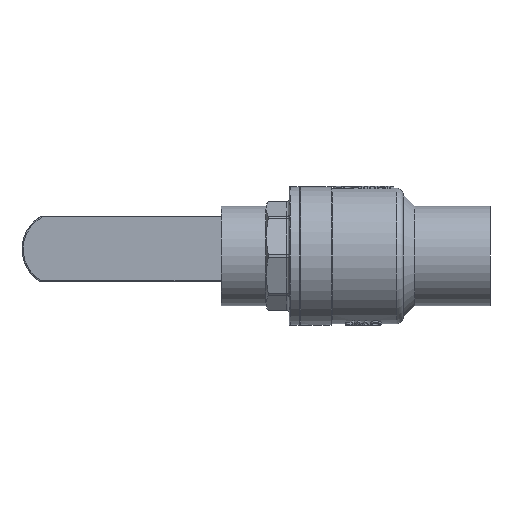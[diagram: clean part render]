
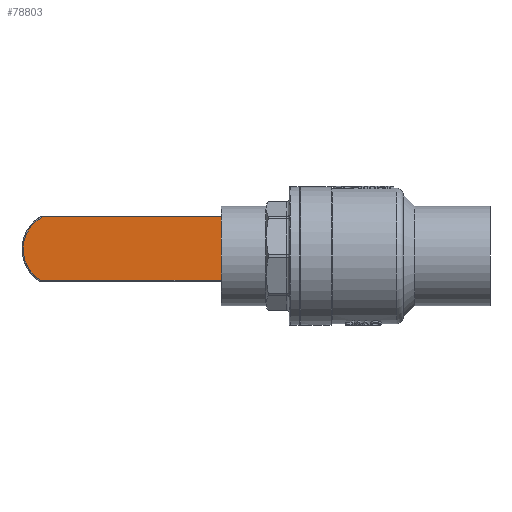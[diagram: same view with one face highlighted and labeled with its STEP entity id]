
A CAD part, front view. The second image highlights one B-rep face of the part: STEP entity #78803.
In plain terms, the highlighted planar face has unit normal (0, -1, 0).
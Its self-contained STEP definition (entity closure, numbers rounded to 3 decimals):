
#539 = CARTESIAN_POINT ( 'NONE',  ( 125., 20.5, 0. ) ) ;
#1488 = CARTESIAN_POINT ( 'NONE',  ( 133.205, 20.5, 13.15 ) ) ;
#1669 = DIRECTION ( 'NONE',  ( 0., 0., 1. ) ) ;
#2537 = ORIENTED_EDGE ( 'NONE', *, *, #29339, .T. ) ;
#4597 = VECTOR ( 'NONE', #25870, 1000. ) ;
#15016 = VERTEX_POINT ( 'NONE', #1488 ) ;
#16130 = AXIS2_PLACEMENT_3D ( 'NONE', #539, #53933, #1669 ) ;
#16777 = EDGE_CURVE ( 'NONE', #60270, #89980, #111974, .T. ) ;
#17118 = EDGE_CURVE ( 'NONE', #89980, #103763, #99600, .T. ) ;
#17437 = AXIS2_PLACEMENT_3D ( 'NONE', #95542, #113225, #78169 ) ;
#25870 = DIRECTION ( 'NONE',  ( -1., 0., 0. ) ) ;
#29339 = EDGE_CURVE ( 'NONE', #15016, #60270, #72424, .T. ) ;
#37510 = CARTESIAN_POINT ( 'NONE',  ( 49.971, 20.5, 12.65 ) ) ;
#40129 = ORIENTED_EDGE ( 'NONE', *, *, #17118, .T. ) ;
#40241 = FACE_OUTER_BOUND ( 'NONE', #101527, .T. ) ;
#42289 = DIRECTION ( 'NONE',  ( 1., 0., 0. ) ) ;
#44366 = VECTOR ( 'NONE', #90063, 1000. ) ;
#50794 = CARTESIAN_POINT ( 'NONE',  ( 49.1, 20.5, -13.65 ) ) ;
#52984 = CARTESIAN_POINT ( 'NONE',  ( 49.971, 20.5, 13.15 ) ) ;
#53933 = DIRECTION ( 'NONE',  ( 0., -1., 0. ) ) ;
#56758 = EDGE_CURVE ( 'NONE', #103763, #15016, #102939, .T. ) ;
#60270 = VERTEX_POINT ( 'NONE', #64773 ) ;
#62082 = ORIENTED_EDGE ( 'NONE', *, *, #56758, .T. ) ;
#63337 = ORIENTED_EDGE ( 'NONE', *, *, #16777, .T. ) ;
#64773 = CARTESIAN_POINT ( 'NONE',  ( 49.971, 20.5, 13.15 ) ) ;
#72424 = LINE ( 'NONE', #52984, #4597 ) ;
#74387 = CARTESIAN_POINT ( 'NONE',  ( 132.344, 20.5, -13.65 ) ) ;
#78169 = DIRECTION ( 'NONE',  ( 0., 0., 1. ) ) ;
#78803 = ADVANCED_FACE ( 'NONE', ( #40241 ), #88576, .F. ) ;
#81690 = VECTOR ( 'NONE', #42289, 1000. ) ;
#88576 = PLANE ( 'NONE',  #17437 ) ;
#89980 = VERTEX_POINT ( 'NONE', #111012 ) ;
#90063 = DIRECTION ( 'NONE',  ( 0., 0., -1. ) ) ;
#95542 = CARTESIAN_POINT ( 'NONE',  ( 49.1, 20.5, 12.65 ) ) ;
#99600 = LINE ( 'NONE', #50794, #81690 ) ;
#101527 = EDGE_LOOP ( 'NONE', ( #40129, #62082, #2537, #63337 ) ) ;
#102939 = CIRCLE ( 'NONE', #16130, 15.5 ) ;
#103763 = VERTEX_POINT ( 'NONE', #74387 ) ;
#111012 = CARTESIAN_POINT ( 'NONE',  ( 49.971, 20.5, -13.65 ) ) ;
#111974 = LINE ( 'NONE', #37510, #44366 ) ;
#113225 = DIRECTION ( 'NONE',  ( 0., 1., 0. ) ) ;
